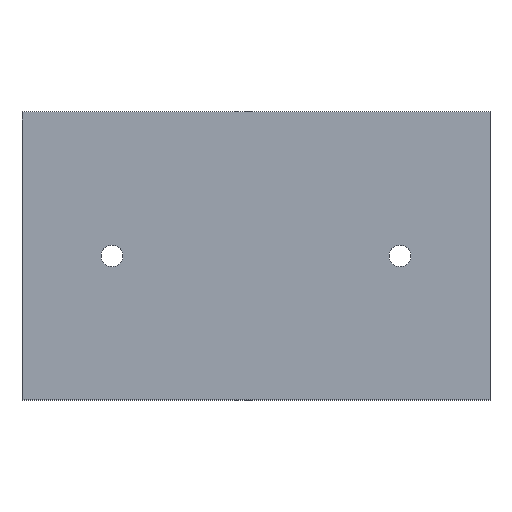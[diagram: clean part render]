
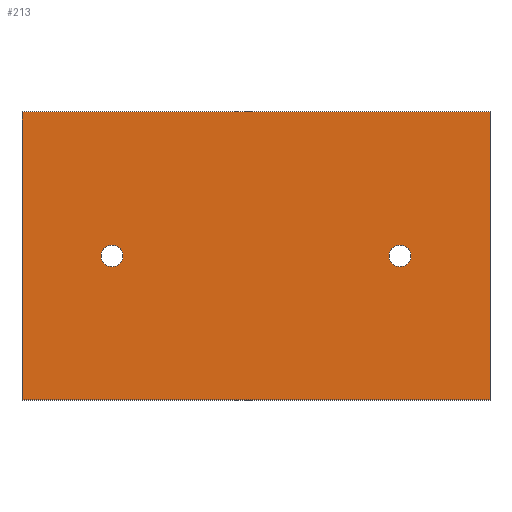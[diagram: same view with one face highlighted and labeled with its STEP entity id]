
A CAD part, top view. The second image highlights one B-rep face of the part: STEP entity #213.
In plain terms, the highlighted planar face has unit normal (0, 0, 1).
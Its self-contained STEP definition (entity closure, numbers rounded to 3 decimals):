
#24 = VERTEX_POINT('',#25);
#25 = CARTESIAN_POINT('',(-65.,-40.,24.));
#32 = PLANE('',#33);
#33 = AXIS2_PLACEMENT_3D('',#34,#35,#36);
#34 = CARTESIAN_POINT('',(-65.,-40.,16.));
#35 = DIRECTION('',(1.,0.,0.));
#36 = DIRECTION('',(0.,0.,1.));
#44 = PLANE('',#45);
#45 = AXIS2_PLACEMENT_3D('',#46,#47,#48);
#46 = CARTESIAN_POINT('',(-65.,-40.,16.));
#47 = DIRECTION('',(0.,1.,0.));
#48 = DIRECTION('',(0.,0.,1.));
#85 = VERTEX_POINT('',#86);
#86 = CARTESIAN_POINT('',(-65.,40.,24.));
#100 = PLANE('',#101);
#101 = AXIS2_PLACEMENT_3D('',#102,#103,#104);
#102 = CARTESIAN_POINT('',(-65.,40.,16.));
#103 = DIRECTION('',(0.,1.,0.));
#104 = DIRECTION('',(0.,0.,1.));
#112 = EDGE_CURVE('',#24,#85,#113,.T.);
#113 = SURFACE_CURVE('',#114,(#118,#125),.PCURVE_S1.);
#114 = LINE('',#115,#116);
#115 = CARTESIAN_POINT('',(-65.,-40.,24.));
#116 = VECTOR('',#117,1.);
#117 = DIRECTION('',(0.,1.,0.));
#118 = PCURVE('',#32,#119);
#119 = DEFINITIONAL_REPRESENTATION('',(#120),#124);
#120 = LINE('',#121,#122);
#121 = CARTESIAN_POINT('',(8.,0.));
#122 = VECTOR('',#123,1.);
#123 = DIRECTION('',(0.,-1.));
#124 = ( GEOMETRIC_REPRESENTATION_CONTEXT(2) 
PARAMETRIC_REPRESENTATION_CONTEXT() REPRESENTATION_CONTEXT('2D SPACE',''
  ) );
#125 = PCURVE('',#126,#131);
#126 = PLANE('',#127);
#127 = AXIS2_PLACEMENT_3D('',#128,#129,#130);
#128 = CARTESIAN_POINT('',(-65.,-40.,24.));
#129 = DIRECTION('',(0.,0.,1.));
#130 = DIRECTION('',(1.,0.,0.));
#131 = DEFINITIONAL_REPRESENTATION('',(#132),#136);
#132 = LINE('',#133,#134);
#133 = CARTESIAN_POINT('',(0.,0.));
#134 = VECTOR('',#135,1.);
#135 = DIRECTION('',(0.,1.));
#136 = ( GEOMETRIC_REPRESENTATION_CONTEXT(2) 
PARAMETRIC_REPRESENTATION_CONTEXT() REPRESENTATION_CONTEXT('2D SPACE',''
  ) );
#165 = EDGE_CURVE('',#24,#166,#168,.T.);
#166 = VERTEX_POINT('',#167);
#167 = CARTESIAN_POINT('',(65.,-40.,24.));
#168 = SURFACE_CURVE('',#169,(#173,#180),.PCURVE_S1.);
#169 = LINE('',#170,#171);
#170 = CARTESIAN_POINT('',(-65.,-40.,24.));
#171 = VECTOR('',#172,1.);
#172 = DIRECTION('',(1.,0.,0.));
#173 = PCURVE('',#44,#174);
#174 = DEFINITIONAL_REPRESENTATION('',(#175),#179);
#175 = LINE('',#176,#177);
#176 = CARTESIAN_POINT('',(8.,0.));
#177 = VECTOR('',#178,1.);
#178 = DIRECTION('',(0.,1.));
#179 = ( GEOMETRIC_REPRESENTATION_CONTEXT(2) 
PARAMETRIC_REPRESENTATION_CONTEXT() REPRESENTATION_CONTEXT('2D SPACE',''
  ) );
#180 = PCURVE('',#126,#181);
#181 = DEFINITIONAL_REPRESENTATION('',(#182),#186);
#182 = LINE('',#183,#184);
#183 = CARTESIAN_POINT('',(0.,0.));
#184 = VECTOR('',#185,1.);
#185 = DIRECTION('',(1.,0.));
#186 = ( GEOMETRIC_REPRESENTATION_CONTEXT(2) 
PARAMETRIC_REPRESENTATION_CONTEXT() REPRESENTATION_CONTEXT('2D SPACE',''
  ) );
#202 = PLANE('',#203);
#203 = AXIS2_PLACEMENT_3D('',#204,#205,#206);
#204 = CARTESIAN_POINT('',(65.,-40.,16.));
#205 = DIRECTION('',(1.,0.,0.));
#206 = DIRECTION('',(0.,0.,1.));
#213 = ADVANCED_FACE('',(#214,#262,#293),#126,.T.);
#214 = FACE_BOUND('',#215,.T.);
#215 = EDGE_LOOP('',(#216,#217,#218,#241));
#216 = ORIENTED_EDGE('',*,*,#112,.F.);
#217 = ORIENTED_EDGE('',*,*,#165,.T.);
#218 = ORIENTED_EDGE('',*,*,#219,.T.);
#219 = EDGE_CURVE('',#166,#220,#222,.T.);
#220 = VERTEX_POINT('',#221);
#221 = CARTESIAN_POINT('',(65.,40.,24.));
#222 = SURFACE_CURVE('',#223,(#227,#234),.PCURVE_S1.);
#223 = LINE('',#224,#225);
#224 = CARTESIAN_POINT('',(65.,-40.,24.));
#225 = VECTOR('',#226,1.);
#226 = DIRECTION('',(0.,1.,0.));
#227 = PCURVE('',#126,#228);
#228 = DEFINITIONAL_REPRESENTATION('',(#229),#233);
#229 = LINE('',#230,#231);
#230 = CARTESIAN_POINT('',(130.,0.));
#231 = VECTOR('',#232,1.);
#232 = DIRECTION('',(0.,1.));
#233 = ( GEOMETRIC_REPRESENTATION_CONTEXT(2) 
PARAMETRIC_REPRESENTATION_CONTEXT() REPRESENTATION_CONTEXT('2D SPACE',''
  ) );
#234 = PCURVE('',#202,#235);
#235 = DEFINITIONAL_REPRESENTATION('',(#236),#240);
#236 = LINE('',#237,#238);
#237 = CARTESIAN_POINT('',(8.,0.));
#238 = VECTOR('',#239,1.);
#239 = DIRECTION('',(0.,-1.));
#240 = ( GEOMETRIC_REPRESENTATION_CONTEXT(2) 
PARAMETRIC_REPRESENTATION_CONTEXT() REPRESENTATION_CONTEXT('2D SPACE',''
  ) );
#241 = ORIENTED_EDGE('',*,*,#242,.F.);
#242 = EDGE_CURVE('',#85,#220,#243,.T.);
#243 = SURFACE_CURVE('',#244,(#248,#255),.PCURVE_S1.);
#244 = LINE('',#245,#246);
#245 = CARTESIAN_POINT('',(-65.,40.,24.));
#246 = VECTOR('',#247,1.);
#247 = DIRECTION('',(1.,0.,0.));
#248 = PCURVE('',#126,#249);
#249 = DEFINITIONAL_REPRESENTATION('',(#250),#254);
#250 = LINE('',#251,#252);
#251 = CARTESIAN_POINT('',(0.,80.));
#252 = VECTOR('',#253,1.);
#253 = DIRECTION('',(1.,0.));
#254 = ( GEOMETRIC_REPRESENTATION_CONTEXT(2) 
PARAMETRIC_REPRESENTATION_CONTEXT() REPRESENTATION_CONTEXT('2D SPACE',''
  ) );
#255 = PCURVE('',#100,#256);
#256 = DEFINITIONAL_REPRESENTATION('',(#257),#261);
#257 = LINE('',#258,#259);
#258 = CARTESIAN_POINT('',(8.,0.));
#259 = VECTOR('',#260,1.);
#260 = DIRECTION('',(0.,1.));
#261 = ( GEOMETRIC_REPRESENTATION_CONTEXT(2) 
PARAMETRIC_REPRESENTATION_CONTEXT() REPRESENTATION_CONTEXT('2D SPACE',''
  ) );
#262 = FACE_BOUND('',#263,.T.);
#263 = EDGE_LOOP('',(#264));
#264 = ORIENTED_EDGE('',*,*,#265,.F.);
#265 = EDGE_CURVE('',#266,#266,#268,.T.);
#266 = VERTEX_POINT('',#267);
#267 = CARTESIAN_POINT('',(-36.985,0.,24.));
#268 = SURFACE_CURVE('',#269,(#274,#281),.PCURVE_S1.);
#269 = CIRCLE('',#270,3.015);
#270 = AXIS2_PLACEMENT_3D('',#271,#272,#273);
#271 = CARTESIAN_POINT('',(-40.,0.,24.));
#272 = DIRECTION('',(0.,0.,1.));
#273 = DIRECTION('',(1.,0.,0.));
#274 = PCURVE('',#126,#275);
#275 = DEFINITIONAL_REPRESENTATION('',(#276),#280);
#276 = CIRCLE('',#277,3.015);
#277 = AXIS2_PLACEMENT_2D('',#278,#279);
#278 = CARTESIAN_POINT('',(25.,40.));
#279 = DIRECTION('',(1.,0.));
#280 = ( GEOMETRIC_REPRESENTATION_CONTEXT(2) 
PARAMETRIC_REPRESENTATION_CONTEXT() REPRESENTATION_CONTEXT('2D SPACE',''
  ) );
#281 = PCURVE('',#282,#287);
#282 = CYLINDRICAL_SURFACE('',#283,3.015);
#283 = AXIS2_PLACEMENT_3D('',#284,#285,#286);
#284 = CARTESIAN_POINT('',(-40.,0.,16.));
#285 = DIRECTION('',(-0.,-0.,-1.));
#286 = DIRECTION('',(1.,0.,0.));
#287 = DEFINITIONAL_REPRESENTATION('',(#288),#292);
#288 = LINE('',#289,#290);
#289 = CARTESIAN_POINT('',(-0.,-8.));
#290 = VECTOR('',#291,1.);
#291 = DIRECTION('',(-1.,0.));
#292 = ( GEOMETRIC_REPRESENTATION_CONTEXT(2) 
PARAMETRIC_REPRESENTATION_CONTEXT() REPRESENTATION_CONTEXT('2D SPACE',''
  ) );
#293 = FACE_BOUND('',#294,.T.);
#294 = EDGE_LOOP('',(#295));
#295 = ORIENTED_EDGE('',*,*,#296,.F.);
#296 = EDGE_CURVE('',#297,#297,#299,.T.);
#297 = VERTEX_POINT('',#298);
#298 = CARTESIAN_POINT('',(43.015,0.,24.));
#299 = SURFACE_CURVE('',#300,(#305,#312),.PCURVE_S1.);
#300 = CIRCLE('',#301,3.015);
#301 = AXIS2_PLACEMENT_3D('',#302,#303,#304);
#302 = CARTESIAN_POINT('',(40.,0.,24.));
#303 = DIRECTION('',(0.,0.,1.));
#304 = DIRECTION('',(1.,0.,0.));
#305 = PCURVE('',#126,#306);
#306 = DEFINITIONAL_REPRESENTATION('',(#307),#311);
#307 = CIRCLE('',#308,3.015);
#308 = AXIS2_PLACEMENT_2D('',#309,#310);
#309 = CARTESIAN_POINT('',(105.,40.));
#310 = DIRECTION('',(1.,0.));
#311 = ( GEOMETRIC_REPRESENTATION_CONTEXT(2) 
PARAMETRIC_REPRESENTATION_CONTEXT() REPRESENTATION_CONTEXT('2D SPACE',''
  ) );
#312 = PCURVE('',#313,#318);
#313 = CYLINDRICAL_SURFACE('',#314,3.015);
#314 = AXIS2_PLACEMENT_3D('',#315,#316,#317);
#315 = CARTESIAN_POINT('',(40.,0.,16.));
#316 = DIRECTION('',(-0.,-0.,-1.));
#317 = DIRECTION('',(1.,0.,0.));
#318 = DEFINITIONAL_REPRESENTATION('',(#319),#323);
#319 = LINE('',#320,#321);
#320 = CARTESIAN_POINT('',(-0.,-8.));
#321 = VECTOR('',#322,1.);
#322 = DIRECTION('',(-1.,0.));
#323 = ( GEOMETRIC_REPRESENTATION_CONTEXT(2) 
PARAMETRIC_REPRESENTATION_CONTEXT() REPRESENTATION_CONTEXT('2D SPACE',''
  ) );
